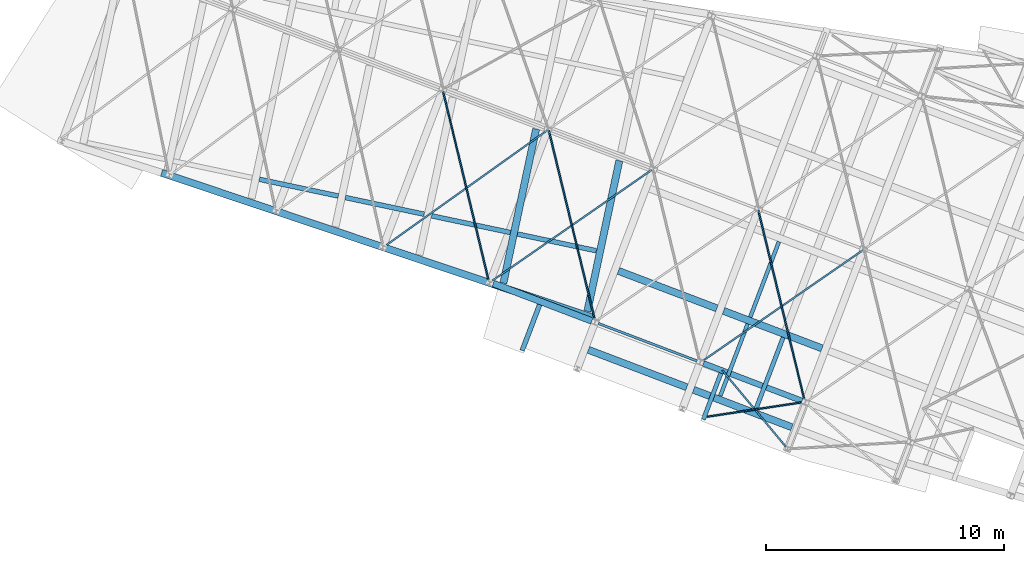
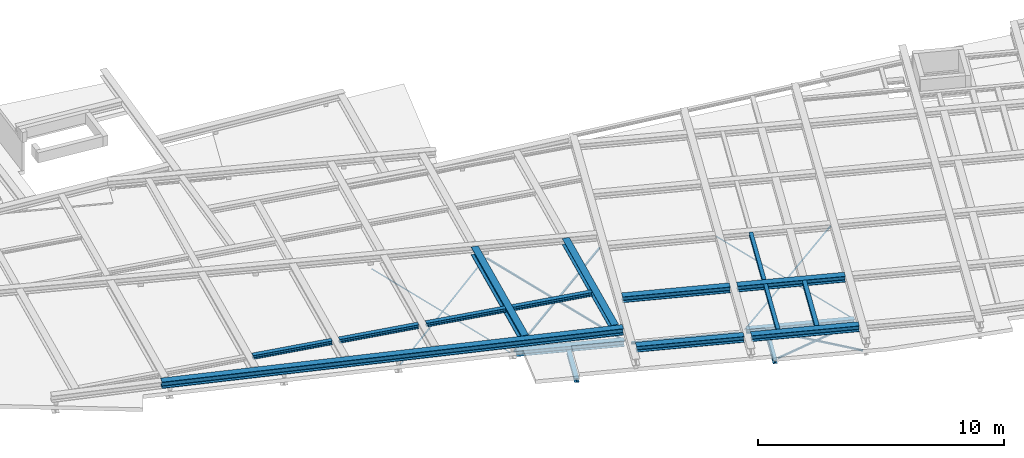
# One storey, part 9 of 21: 27 beams.
"""IFC2X3 building model written with IfcOpenShell, lengths in millimetres."""

from ifc_helpers import new_model, entity, si_unit, converted_unit, derived_unit, direction, frame, frame_2d, origin, place, context, subcontext, project, spatial, polyline, circle_curve, parameter, trimmed, segment, composite_curve, i_section, outline, extrude, material, type_object, element, save


model = new_model("IFC2X3")

# Units and contexts
model_context = context("Model", 3, precision=0.01, world=origin(), true_north=direction((6.123233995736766e-17, 1.0)))
body_context = subcontext(model_context, "Body", "Model", "MODEL_VIEW")
ifc_project = project(units=[si_unit("LENGTHUNIT", "METRE", prefix="MILLI"), converted_unit("PLANEANGLEUNIT", "DEGREE", entity("IfcPlaneAngleMeasure", 0.017453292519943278), si_unit("PLANEANGLEUNIT", "RADIAN"), dimensions=[0, 0, 0, 0, 0, 0, 0]), si_unit("AREAUNIT", "SQUARE_METRE"), derived_unit("THERMALTRANSMITTANCEUNIT", [(si_unit("MASSUNIT", "GRAM", prefix="KILO"), 1), (si_unit("THERMODYNAMICTEMPERATUREUNIT", "KELVIN"), -1), (si_unit("TIMEUNIT", "SECOND"), -3)])], contexts=[model_context])

# Site, building, storey
site_placement = place(None, frame((-72937.88054949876, 11621.45624098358, 0.0), z_axis=(0.0, 0.0, 1.0), x_axis=(0.9346418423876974, -0.35559053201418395, 0.0)))
site = spatial("IfcSite", under=ifc_project, at=site_placement, Name="Default", CompositionType="ELEMENT")
building_placement = place(site_placement, origin())
building = spatial("IfcBuilding", under=site, at=building_placement, CompositionType="ELEMENT")
storey_placement = place(building_placement, frame((0.0, 0.0, 4250.0)))
storey = spatial("IfcBuildingStorey", under=building, at=storey_placement, Name="01 eerste verdieping", CompositionType="ELEMENT", Elevation=4250.0)

# Beams
ifc_material_1 = material(Name="metaal_staal_generiek")
beam_type_1 = type_object("IfcBeamType", Name="DIE18", PredefinedType="BEAM")
beam_1_placement = place(storey_placement, frame((44360.0, 12882.982078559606, -80.0), z_axis=(0.0, 0.0, 1.0), x_axis=(0.0, 1.0, 0.0)))
element("IfcBeam", 1, at=beam_1_placement, inside=storey, type_object=beam_type_1, material=ifc_material_1, Name="28.11_Stalen balk HEA", ObjectType="stalen balk HEA profiel", context=body_context, shape_type="SweptSolid", body=[
    extrude(i_section(OverallWidth=180.0000000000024, OverallDepth=171.0000000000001, WebThickness=5.999999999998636, FlangeThickness=9.500000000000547, FilletRadius=14.999999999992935, at=frame_2d((1.0800249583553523e-12, 4.334310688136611e-12), x_axis=(0.0, 1.0))), frame((-85.49103927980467, 0.0, -255.50000000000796), z_axis=(1.0, 0.0, 0.0), x_axis=(0.0, 0.0, -1.0)), (0.0, 0.0, 1.0), 2082.500000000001),
])
beam_type_2 = type_object("IfcBeamType", Name="DIE24", PredefinedType="BEAM")
beam_2_placement = place(storey_placement, frame((48110.0, 15000.0, -80.0), z_axis=(0.0, 0.0, 1.0), x_axis=(-1.0, 0.0, 0.0)))
element("IfcBeam", 2, at=beam_2_placement, inside=storey, type_object=beam_type_2, material=ifc_material_1, Name="28.11_Stalen balk HEA", ObjectType="stalen balk HEA profiel", context=body_context, shape_type="SweptSolid", body=[
    extrude(i_section(OverallWidth=239.99999999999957, OverallDepth=229.9999999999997, WebThickness=7.50000000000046, FlangeThickness=12.00000000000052, FilletRadius=20.999999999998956, at=frame_2d((1.0800249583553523e-12, -1.0871303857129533e-12), x_axis=(0.0, 1.0))), frame((150.0, 0.0, -115.0), z_axis=(1.0, 0.0, 0.0), x_axis=(0.0, 0.0, -1.0)), (0.0, 0.0, 1.0), 4437.2999999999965),
])
beam_type_3 = type_object("IfcBeamType", Name="DIE10", PredefinedType="BEAM")
beam_3_placement = place(storey_placement, frame((43380.0, 15000.0, -80.0), z_axis=(0.0, 0.0, 1.0), x_axis=(-1.0, 0.0, 0.0)))
element("IfcBeam", 3, at=beam_3_placement, inside=storey, type_object=beam_type_3, material=ifc_material_1, Name="28.11_Stalen balk HEA", ObjectType="stalen balk HEA profiel", context=body_context, shape_type="SweptSolid", body=[
    extrude(i_section(OverallWidth=100.0000000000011, OverallDepth=95.99999999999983, WebThickness=5.0000000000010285, FlangeThickness=8.000000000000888, FilletRadius=11.999999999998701, at=frame_2d((1.623590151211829e-12, 3.2507330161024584e-12), x_axis=(0.0, 1.0))), frame((142.69999999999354, 0.0, -218.0), z_axis=(1.0, 0.0, 0.0), x_axis=(0.0, 0.0, -1.0)), (0.0, 0.0, 1.0), 4444.5999999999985),
])
beam_type_4 = type_object("IfcBeamType", Name="DIE28", PredefinedType="BEAM")
beam_4_placement = place(storey_placement, frame((38650.0, 15000.0, -80.0), z_axis=(0.0, 0.0, 1.0), x_axis=(-1.0, 0.0, 0.0)))
element("IfcBeam", 4, at=beam_4_placement, inside=storey, type_object=beam_type_4, material=ifc_material_1, Name="28.11_Stalen balk HEA", ObjectType="stalen balk HEA profiel", context=body_context, shape_type="SweptSolid", body=[
    extrude(i_section(OverallWidth=280.0000000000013, OverallDepth=269.9999999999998, WebThickness=7.999999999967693, FlangeThickness=13.000000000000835, FilletRadius=24.000000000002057, at=frame_2d((2.7000623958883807e-13, 1.0800249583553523e-12), x_axis=(0.0, 1.0))), frame((142.7136917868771, 0.0, -135.0), z_axis=(1.0, 0.0, 0.0), x_axis=(0.0, 0.0, -1.0)), (0.0, 0.0, 1.0), 4437.272616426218),
])
beam_type_5 = type_object("IfcBeamType", Name="DIE20", PredefinedType="BEAM")
beam_5_placement = place(storey_placement, frame((36210.0, 12882.982078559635, -80.0), z_axis=(0.0, 0.0, 1.0), x_axis=(0.0, 1.0, 0.0)))
element("IfcBeam", 5, at=beam_5_placement, inside=storey, type_object=beam_type_5, material=ifc_material_1, Name="28.11_Stalen balk HEA", ObjectType="stalen balk HEA profiel", context=body_context, shape_type="SweptSolid", body=[
    extrude(i_section(OverallWidth=199.99999999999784, OverallDepth=190.0000000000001, WebThickness=6.499999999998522, FlangeThickness=10.000000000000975, FilletRadius=18.0000000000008, at=frame_2d((1.0800249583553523e-12, 2.1671553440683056e-12), x_axis=(0.0, 1.0))), frame((-85.49103927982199, 0.0, -265.0), z_axis=(1.0, 0.0, 0.0), x_axis=(0.0, 0.0, -1.0)), (0.0, 0.0, 1.0), 2062.5000000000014),
])
beam_type_6 = type_object("IfcBeamType", Name="L70x7", PredefinedType="NOTDEFINED")
beam_6_placement = place(storey_placement, frame((48110.0, 12882.98207855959, -270.0), z_axis=(0.0, 0.0, 1.0), x_axis=(-0.8708161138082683, 0.4916088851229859, 0.0)))
element("IfcBeam", 6, at=beam_6_placement, inside=storey, type_object=beam_type_6, material=ifc_material_1, Name="28.11_SF_WVB-L-Gelijkzijdig:L70x7", ObjectType="28.11_SF_WVB-L-Gelijkzijdig:L70x7", context=body_context, shape_type="SweptSolid", body=[
    extrude(outline(composite_curve([segment(polyline([(-26.444444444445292, -43.5555555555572), (-23.944444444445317, -43.5555555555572)]), True, "CONTINUOUS"), segment(trimmed(circle_curve(frame_2d((-23.944444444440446, -39.05555555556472), x_axis=(0.0, -1.0)), 4.499999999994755), [parameter(0.0)], [parameter(90.00000000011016)], True, "PARAMETER"), True, "CONTINUOUS"), segment(polyline([(-19.444444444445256, -39.05555555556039), (-19.444444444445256, 10.44444444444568)]), True, "CONTINUOUS"), segment(trimmed(circle_curve(frame_2d((-10.444444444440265, 10.44444444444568), x_axis=(-1.0, 0.0)), 9.00000000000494), [parameter(270.0000000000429)], [parameter(0.0)], True, "PARAMETER"), False, "CONTINUOUS"), segment(polyline([(-10.444444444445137, 19.44444444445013), (39.05555555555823, 19.444444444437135)]), True, "CONTINUOUS"), segment(trimmed(circle_curve(frame_2d((39.05555555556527, 23.944444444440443), x_axis=(0.0, -1.0)), 4.4999999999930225), [parameter(0.0)], [parameter(90.00000000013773)], True, "PARAMETER"), True, "CONTINUOUS"), segment(polyline([(43.55555555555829, 23.94444444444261), (43.55555555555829, 26.44444444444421)]), True, "CONTINUOUS"), segment(polyline([(43.55555555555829, 26.444444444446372), (-26.444444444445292, 26.44444444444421)]), True, "CONTINUOUS"), segment(polyline([(-26.444444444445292, 26.444444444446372), (-26.444444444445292, -43.5555555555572)]), True, "CONTINUOUS")], self_intersect=False)), frame((135.90262346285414, -6.744444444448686, -6.7444444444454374), z_axis=(1.0, 0.0, 0.0), x_axis=(0.0, 0.0, -1.0)), (0.0, 0.0, 1.0), 4170.400000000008),
])
beam_7_placement = place(storey_placement, frame((48110.0, 15000.0, -270.0), z_axis=(0.0, 0.0, 1.0), x_axis=(-0.8708161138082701, -0.4916088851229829, 0.0)))
element("IfcBeam", 7, at=beam_7_placement, inside=storey, type_object=beam_type_6, material=ifc_material_1, Name="28.11_SF_WVB-L-Gelijkzijdig:L70x7", ObjectType="28.11_SF_WVB-L-Gelijkzijdig:L70x7", context=body_context, shape_type="SweptSolid", body=[
    extrude(outline(composite_curve([segment(polyline([(-26.444444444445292, -43.55555555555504), (-23.944444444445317, -43.55555555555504)]), True, "CONTINUOUS"), segment(trimmed(circle_curve(frame_2d((-23.944444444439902, -39.055555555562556), x_axis=(0.0, -1.0)), 4.499999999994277), [parameter(0.0)], [parameter(90.00000000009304)], True, "PARAMETER"), True, "CONTINUOUS"), segment(polyline([(-19.444444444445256, -39.05555555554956), (-19.444444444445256, 10.444444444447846)]), True, "CONTINUOUS"), segment(trimmed(circle_curve(frame_2d((-10.444444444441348, 10.44444444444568), x_axis=(-1.0, 0.0)), 9.000000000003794), [parameter(270.00000000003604)], [parameter(0.0)], True, "PARAMETER"), False, "CONTINUOUS"), segment(polyline([(-10.444444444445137, 19.444444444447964), (39.05555555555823, 19.444444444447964)]), True, "CONTINUOUS"), segment(trimmed(circle_curve(frame_2d((39.05555555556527, 23.944444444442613), x_axis=(0.0, -1.0)), 4.499999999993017), [parameter(0.0)], [parameter(90.00000000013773)], True, "PARAMETER"), True, "CONTINUOUS"), segment(polyline([(43.55555555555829, 23.944444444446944), (43.55555555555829, 26.44444444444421)]), True, "CONTINUOUS"), segment(polyline([(43.55555555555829, 26.44444444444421), (-26.444444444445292, 26.44444444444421)]), True, "CONTINUOUS"), segment(polyline([(-26.444444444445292, 26.44444444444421), (-26.444444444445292, -43.55555555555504)]), True, "CONTINUOUS")], self_intersect=False)), frame((173.15262346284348, -6.744444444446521, -6.7444444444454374), z_axis=(1.0, 0.0, 0.0), x_axis=(0.0, 0.0, -1.0)), (0.0, 0.0, 1.0), 3991.700000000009),
])
beam_8_placement = place(storey_placement, frame((43380.0, 15000.0, -270.0), z_axis=(0.0, 0.0, 1.0), x_axis=(0.5665288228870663, 0.824041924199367, 0.0)))
element("IfcBeam", 8, at=beam_8_placement, inside=storey, type_object=beam_type_6, material=ifc_material_1, Name="28.11_SF_WVB-L-Gelijkzijdig:L70x7", ObjectType="28.11_SF_WVB-L-Gelijkzijdig:L70x7", context=body_context, shape_type="SweptSolid", body=[
    extrude(outline(composite_curve([segment(polyline([(-26.444444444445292, -43.55555555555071), (-23.944444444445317, -43.55555555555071)]), True, "CONTINUOUS"), segment(trimmed(circle_curve(frame_2d((-23.94444444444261, -39.05555555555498), x_axis=(0.0, -1.0)), 4.499999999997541), [parameter(0.0)], [parameter(90.00000000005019)], True, "PARAMETER"), True, "CONTINUOUS"), segment(polyline([(-19.444444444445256, -39.05555555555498), (-19.444444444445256, 10.444444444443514)]), True, "CONTINUOUS"), segment(trimmed(circle_curve(frame_2d((-10.44444444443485, 10.444444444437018), x_axis=(-1.0, 0.0)), 9.000000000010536), [parameter(270.0000000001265)], [parameter(0.0)], True, "PARAMETER"), False, "CONTINUOUS"), segment(polyline([(-10.444444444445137, 19.444444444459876), (39.05555555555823, 19.444444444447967)]), True, "CONTINUOUS"), segment(trimmed(circle_curve(frame_2d((39.055555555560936, 23.944444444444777), x_axis=(0.0, -1.0)), 4.499999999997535), [parameter(0.0)], [parameter(90.00000000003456)], True, "PARAMETER"), True, "CONTINUOUS"), segment(polyline([(43.55555555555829, 23.944444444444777), (43.55555555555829, 26.44444444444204)]), True, "CONTINUOUS"), segment(polyline([(43.55555555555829, 26.44444444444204), (-26.444444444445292, 26.44444444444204)]), True, "CONTINUOUS"), segment(polyline([(-26.444444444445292, 26.444444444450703), (-26.444444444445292, -43.55555555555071)]), True, "CONTINUOUS")], self_intersect=False)), frame((189.39488537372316, -6.744444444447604, -6.7444444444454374), z_axis=(1.0, 0.0, 0.0), x_axis=(0.0, 0.0, -1.0)), (0.0, 0.0, 1.0), 8119.300000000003),
])
beam_9_placement = place(storey_placement, frame((38650.0, 15000.0, -270.0), z_axis=(0.0, 0.0, 1.0), x_axis=(-0.5665288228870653, 0.8240419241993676, 0.0)))
element("IfcBeam", 9, at=beam_9_placement, inside=storey, type_object=beam_type_6, material=ifc_material_1, Name="28.11_SF_WVB-L-Gelijkzijdig:L70x7", ObjectType="28.11_SF_WVB-L-Gelijkzijdig:L70x7", context=body_context, shape_type="SweptSolid", body=[
    extrude(outline(composite_curve([segment(polyline([(-26.444444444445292, -43.55555555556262), (-23.944444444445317, -43.55555555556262)]), True, "CONTINUOUS"), segment(trimmed(circle_curve(frame_2d((-23.944444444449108, -39.055555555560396), x_axis=(0.0, -1.0)), 4.500000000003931), [parameter(0.0)], [parameter(89.99999999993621)], True, "PARAMETER"), True, "CONTINUOUS"), segment(polyline([(-19.444444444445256, -39.055555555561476), (-19.444444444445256, 10.44444444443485)]), True, "CONTINUOUS"), segment(trimmed(circle_curve(frame_2d((-10.444444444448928, 10.444444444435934), x_axis=(-1.0, 0.0)), 8.99999999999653), [parameter(269.99999999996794)], [parameter(0.0)], True, "PARAMETER"), False, "CONTINUOUS"), segment(polyline([(-10.444444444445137, 19.444444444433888), (39.05555555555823, 19.44444444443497)]), True, "CONTINUOUS"), segment(trimmed(circle_curve(frame_2d((39.05555555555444, 23.944444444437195), x_axis=(0.0, -1.0)), 4.500000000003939), [parameter(0.0)], [parameter(89.99999999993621)], True, "PARAMETER"), True, "CONTINUOUS"), segment(polyline([(43.55555555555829, 23.94444444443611), (43.55555555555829, 26.444444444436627)]), True, "CONTINUOUS"), segment(polyline([(43.55555555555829, 26.444444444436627), (-26.444444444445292, 26.444444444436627)]), True, "CONTINUOUS"), segment(polyline([(-26.444444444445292, 26.444444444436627), (-26.444444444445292, -43.55555555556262)]), True, "CONTINUOUS")], self_intersect=False)), frame((177.9948853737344, -6.74444444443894, -6.7444444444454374), z_axis=(1.0, 0.0, 0.0), x_axis=(0.0, 0.0, -1.0)), (0.0, 0.0, 1.0), 8109.000000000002),
])
beam_10_placement = place(storey_placement, frame((38650.0, 21880.0, -270.0), z_axis=(0.0, 0.0, 1.0), x_axis=(-0.5645928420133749, -0.8253695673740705, 0.0)))
element("IfcBeam", 10, at=beam_10_placement, inside=storey, type_object=beam_type_6, material=ifc_material_1, Name="28.11_SF_WVB-L-Gelijkzijdig:L70x7", ObjectType="28.11_SF_WVB-L-Gelijkzijdig:L70x7", context=body_context, shape_type="SweptSolid", body=[
    extrude(outline(composite_curve([segment(polyline([(-26.4444444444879, -43.555555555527), (-23.944444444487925, -43.55555555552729)]), True, "CONTINUOUS"), segment(trimmed(circle_curve(frame_2d((-23.944444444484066, -39.05555555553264), x_axis=(0.0, -1.0)), 4.500000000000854), [parameter(0.0)], [parameter(89.9999999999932)], True, "PARAMETER"), True, "CONTINUOUS"), segment(polyline([(-19.444444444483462, -39.05555555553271), (-19.44444444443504, 10.444444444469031)]), True, "CONTINUOUS"), segment(trimmed(circle_curve(frame_2d((-10.44444444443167, 10.444444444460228), x_axis=(-1.0, 0.0)), 9.00000000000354), [parameter(270.0000000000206)], [parameter(0.0)], True, "PARAMETER"), False, "CONTINUOUS"), segment(polyline([(-10.444444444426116, 19.44444444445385), (39.05555555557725, 19.444444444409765)]), True, "CONTINUOUS"), segment(trimmed(circle_curve(frame_2d((39.05555555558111, 23.944444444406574), x_axis=(0.0, -1.0)), 4.500000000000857), [parameter(0.0)], [parameter(89.9999999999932)], True, "PARAMETER"), True, "CONTINUOUS"), segment(polyline([(43.55555555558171, 23.944444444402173), (43.555555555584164, 26.44444444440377)]), True, "CONTINUOUS"), segment(polyline([(43.555555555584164, 26.44444444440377), (-26.444444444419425, 26.444444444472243)]), True, "CONTINUOUS"), segment(polyline([(-26.444444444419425, 26.444444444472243), (-26.4444444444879, -43.55555555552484)]), True, "CONTINUOUS")], self_intersect=False)), frame((74.25934077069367, -6.744444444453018, -6.7444444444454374), z_axis=(1.0, 0.0, 0.0), x_axis=(0.0, 0.0, -1.0)), (0.0, 0.0, 1.0), 8151.700000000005),
])
beam_11_placement = place(storey_placement, frame((29190.0, 14778.05219420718, -270.0), z_axis=(0.0, 0.0, 1.0), x_axis=(0.5543243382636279, 0.8323007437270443, 0.0)))
element("IfcBeam", 11, at=beam_11_placement, inside=storey, type_object=beam_type_6, material=ifc_material_1, Name="28.11_SF_WVB-L-Gelijkzijdig:L70x7", ObjectType="28.11_SF_WVB-L-Gelijkzijdig:L70x7", context=body_context, shape_type="SweptSolid", body=[
    extrude(outline(composite_curve([segment(polyline([(-26.444444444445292, -43.55555555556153), (-23.944444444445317, -43.55555555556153)]), True, "CONTINUOUS"), segment(trimmed(circle_curve(frame_2d((-23.944444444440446, -39.05555555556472), x_axis=(0.0, -1.0)), 4.499999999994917), [parameter(0.0)], [parameter(90.00000000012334)], True, "PARAMETER"), True, "CONTINUOUS"), segment(polyline([(-19.444444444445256, -39.05555555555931), (-19.444444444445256, 10.444444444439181)]), True, "CONTINUOUS"), segment(trimmed(circle_curve(frame_2d((-10.44444444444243, 10.444444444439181), x_axis=(-1.0, 0.0)), 9.000000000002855), [parameter(270.00000000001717)], [parameter(0.0)], True, "PARAMETER"), False, "CONTINUOUS"), segment(polyline([(-10.444444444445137, 19.444444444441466), (39.05555555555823, 19.444444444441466)]), True, "CONTINUOUS"), segment(trimmed(circle_curve(frame_2d((39.0555555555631, 23.94444444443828), x_axis=(0.0, -1.0)), 4.499999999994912), [parameter(0.0)], [parameter(90.00000000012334)], True, "PARAMETER"), True, "CONTINUOUS"), segment(polyline([(43.55555555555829, 23.944444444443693), (43.55555555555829, 26.44444444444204)]), True, "CONTINUOUS"), segment(polyline([(43.55555555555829, 26.44444444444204), (-26.444444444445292, 26.44444444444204)]), True, "CONTINUOUS"), segment(polyline([(-26.444444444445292, 26.44444444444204), (-26.444444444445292, -43.55555555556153)]), True, "CONTINUOUS")], self_intersect=False)), frame((185.00528032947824, -6.744444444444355, -6.7444444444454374), z_axis=(1.0, 0.0, 0.0), x_axis=(0.0, 0.0, -1.0)), (0.0, 0.0, 1.0), 8306.500000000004),
])
beam_type_7 = type_object("IfcBeamType", Name="L70x7", PredefinedType="BEAM")
beam_12_placement = place(storey_placement, frame((43380.0, 21880.0, -270.0), z_axis=(0.0, 0.0, 1.0), x_axis=(0.5665288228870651, -0.8240419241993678, 0.0)))
element("IfcBeam", 12, at=beam_12_placement, inside=storey, type_object=beam_type_7, material=ifc_material_1, Name="28.11_SF_WVB-L-Gelijkzijdig:L70x7", ObjectType="28.11_SF_WVB-L-Gelijkzijdig:L70x7", context=body_context, shape_type="SweptSolid", body=[
    extrude(outline(composite_curve([segment(polyline([(-26.444444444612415, -43.5555555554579), (-23.94444444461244, -43.555555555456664)]), True, "CONTINUOUS"), segment(trimmed(circle_curve(frame_2d((-23.944444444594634, -39.05555555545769), x_axis=(0.0, -1.0)), 4.499999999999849), [parameter(0.0)], [parameter(90.00000000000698)], True, "PARAMETER"), True, "CONTINUOUS"), segment(polyline([(-19.444444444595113, -39.05555555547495), (-19.444444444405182, 10.444444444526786)]), True, "CONTINUOUS"), segment(trimmed(circle_curve(frame_2d((-10.444444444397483, 10.444444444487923), x_axis=(-1.0, 0.0)), 9.000000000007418), [parameter(270.0000000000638)], [parameter(0.0)], True, "PARAMETER"), False, "CONTINUOUS"), segment(polyline([(-10.444444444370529, 19.444444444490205), (39.055555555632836, 19.44444444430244)]), True, "CONTINUOUS"), segment(trimmed(circle_curve(frame_2d((39.05555555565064, 23.944444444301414), x_axis=(0.0, -1.0)), 4.499999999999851), [parameter(0.0)], [parameter(90.00000000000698)], True, "PARAMETER"), True, "CONTINUOUS"), segment(polyline([(43.555555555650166, 23.944444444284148), (43.55555555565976, 26.44444444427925)]), True, "CONTINUOUS"), segment(polyline([(43.55555555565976, 26.44444444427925), (-26.444444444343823, 26.44444444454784)]), True, "CONTINUOUS"), segment(polyline([(-26.444444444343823, 26.44444444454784), (-26.444444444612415, -43.55555555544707)]), True, "CONTINUOUS")], self_intersect=False)), frame((53.09488537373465, -6.744444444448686, -6.7444444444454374), z_axis=(1.0, 0.0, 0.0), x_axis=(0.0, 0.0, -1.0)), (0.0, 0.0, 1.0), 8119.300000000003),
])
beam_13_placement = place(storey_placement, frame((29190.0, 21880.0, -270.0), z_axis=(0.0, 0.0, 1.0), x_axis=(0.5645928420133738, -0.8253695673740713, 0.0)))
element("IfcBeam", 13, at=beam_13_placement, inside=storey, type_object=beam_type_7, material=ifc_material_1, Name="28.11_SF_WVB-L-Gelijkzijdig:L70x7", ObjectType="28.11_SF_WVB-L-Gelijkzijdig:L70x7", context=body_context, shape_type="SweptSolid", body=[
    extrude(outline(composite_curve([segment(polyline([(-26.444444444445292, -43.55555555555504), (-23.944444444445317, -43.55555555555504)]), True, "CONTINUOUS"), segment(trimmed(circle_curve(frame_2d((-23.94444444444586, -39.055555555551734), x_axis=(0.0, -1.0)), 4.50000000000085), [parameter(0.0)], [parameter(89.9999999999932)], True, "PARAMETER"), True, "CONTINUOUS"), segment(polyline([(-19.444444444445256, -39.055555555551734), (-19.444444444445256, 10.44444444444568)]), True, "CONTINUOUS"), segment(trimmed(circle_curve(frame_2d((-10.444444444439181, 10.444444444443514), x_axis=(-1.0, 0.0)), 9.000000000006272), [parameter(270.00000000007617)], [parameter(0.0)], True, "PARAMETER"), False, "CONTINUOUS"), segment(polyline([(-10.444444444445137, 19.444444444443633), (39.05555555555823, 19.444444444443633)]), True, "CONTINUOUS"), segment(trimmed(circle_curve(frame_2d((39.05555555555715, 23.94444444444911), x_axis=(0.0, -1.0)), 4.500000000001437), [parameter(0.0)], [parameter(89.99999999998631)], True, "PARAMETER"), True, "CONTINUOUS"), segment(polyline([(43.55555555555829, 23.94444444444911), (43.55555555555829, 26.444444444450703)]), True, "CONTINUOUS"), segment(polyline([(43.55555555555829, 26.444444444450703), (-26.444444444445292, 26.444444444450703)]), True, "CONTINUOUS"), segment(polyline([(-26.444444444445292, 26.444444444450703), (-26.444444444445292, -43.55555555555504)]), True, "CONTINUOUS")], self_intersect=False)), frame((88.20934077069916, -6.744444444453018, -6.7444444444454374), z_axis=(1.0, 0.0, 0.0), x_axis=(0.0, 0.0, -1.0)), (0.0, 0.0, 1.0), 8128.000000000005),
])
ifc_material_2 = material(Name="metaal_staal_profiel_s235")
beam_type_8 = type_object("IfcBeamType", Name="HEB320", PredefinedType="BEAM")
beam_14_placement = place(storey_placement, frame((19382.78054287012, 14389.840229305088, 450.0), z_axis=(0.0, 0.0, 1.0), x_axis=(0.9992174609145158, 0.03955332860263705, 0.0)))
element("IfcBeam", 14, at=beam_14_placement, inside=storey, type_object=beam_type_8, material=ifc_material_2, Name="28.11_Stalen balk HEB", ObjectType="28.11_SF_BalkHEB:HEB320", context=body_context, shape_type="SweptSolid", body=[
    extrude(i_section(OverallWidth=300.0000000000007, OverallDepth=319.99999999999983, WebThickness=11.500000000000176, FlangeThickness=20.500000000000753, FilletRadius=26.999999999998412, at=frame_2d((5.400124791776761e-13, -1.0800249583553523e-12), x_axis=(0.0, 1.0))), frame((5.404308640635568, 0.0, -160.0), z_axis=(1.0, 0.0, 0.0), x_axis=(0.0, 0.0, -1.0)), (0.0, 0.0, 1.0), 19108.100000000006),
])
beam_type_9 = type_object("IfcBeamType", Name="HEA320", PredefinedType="BEAM")
beam_15_placement = place(storey_placement, frame((37162.64000453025, 21880.0, 450.0), z_axis=(0.0, 0.0, 1.0), x_axis=(0.15393076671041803, -0.9880816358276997, 0.0)))
element("IfcBeam", 15, at=beam_15_placement, inside=storey, type_object=beam_type_9, material=ifc_material_2, Name="28.11_Stalen balk HEA", ObjectType="stalen balk HEA profiel", context=body_context, shape_type="SweptSolid", body=[
    extrude(i_section(OverallWidth=300.0000000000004, OverallDepth=309.9999999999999, WebThickness=8.99999999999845, FlangeThickness=15.500000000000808, FilletRadius=26.999999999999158, at=frame_2d((0.0, -1.1027623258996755e-11), x_axis=(0.0, 1.0))), frame((175.20968491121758, 0.0, -155.0), z_axis=(1.0, 0.0, 0.0), x_axis=(0.0, 0.0, -1.0)), (0.0, 0.0, 1.0), 6469.800000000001),
])
beam_type_10 = type_object("IfcBeamType", Name="HEB400", PredefinedType="BEAM")
beam_16_placement = place(storey_placement, frame((33418.010142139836, 21880.0, 450.0), z_axis=(0.0, 0.0, 1.0), x_axis=(0.15393076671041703, -0.9880816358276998, 0.0)))
element("IfcBeam", 16, at=beam_16_placement, inside=storey, type_object=beam_type_10, material=ifc_material_2, Name="28.11_Stalen balk HEB", ObjectType="28.11_SF_BalkHEB:HEB400", context=body_context, shape_type="SweptSolid", body=[
    extrude(i_section(OverallWidth=299.99999999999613, OverallDepth=400.0, WebThickness=13.499999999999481, FlangeThickness=24.00000000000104, FilletRadius=27.00000000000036, at=frame_2d((1.3642420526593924e-12, -2.1458390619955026e-12), x_axis=(0.0, 1.0))), frame((175.20822427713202, 0.0, -200.0), z_axis=(1.0, 0.0, 0.0), x_axis=(0.0, 0.0, -1.0)), (0.0, 0.0, 1.0), 6618.900000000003),
])
beam_type_11 = type_object("IfcBeamType", Name="HEA200", PredefinedType="BEAM")
beam_17_placement = place(storey_placement, frame((37790.281571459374, 17851.16860121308, 450.0), z_axis=(0.0, 0.0, 1.0), x_axis=(-0.9880816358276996, -0.15393076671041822, 0.0)))
element("IfcBeam", 17, at=beam_17_placement, inside=storey, type_object=beam_type_11, material=ifc_material_2, Name="28.11_Stalen balk HEA", ObjectType="stalen balk HEA profiel", context=body_context, shape_type="SweptSolid", body=[
    extrude(i_section(OverallWidth=199.9999999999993, OverallDepth=190.0000000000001, WebThickness=6.499999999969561, FlangeThickness=10.000000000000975, FilletRadius=17.99999999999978, at=frame_2d((5.400124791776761e-13, 1.0729195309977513e-12), x_axis=(0.0, 1.0))), frame((162.90214859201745, 0.0, -95.0), z_axis=(1.0, 0.0, 0.0), x_axis=(0.0, 0.0, -1.0)), (0.0, 0.0, 1.0), 3386.9000000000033),
])
beam_18_placement = place(storey_placement, frame((30478.477466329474, 16712.080927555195, 450.0), z_axis=(0.0, 0.0, 1.0), x_axis=(0.9880816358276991, 0.1539307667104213, 0.0)))
element("IfcBeam", 18, at=beam_18_placement, inside=storey, type_object=beam_type_11, material=ifc_material_2, Name="28.11_Stalen balk HEA", ObjectType="stalen balk HEA profiel", context=body_context, shape_type="SweptSolid", body=[
    extrude(i_section(OverallWidth=200.00000000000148, OverallDepth=190.0000000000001, WebThickness=6.499999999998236, FlangeThickness=10.000000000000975, FilletRadius=17.999999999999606, at=frame_2d((5.400124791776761e-13, -1.4068746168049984e-12), x_axis=(0.0, 1.0))), frame((162.90215077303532, 0.0, -95.0), z_axis=(1.0, 0.0, 0.0), x_axis=(0.0, 0.0, -1.0)), (0.0, 0.0, 1.0), 3386.900000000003),
])
beam_19_placement = place(storey_placement, frame((30478.477466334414, 16712.080927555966, 450.0), z_axis=(0.0, 0.0, 1.0), x_axis=(-0.9880816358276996, -0.15393076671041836, 0.0)))
element("IfcBeam", 19, at=beam_19_placement, inside=storey, type_object=beam_type_11, material=ifc_material_2, Name="28.11_Stalen balk HEA", ObjectType="stalen balk HEA profiel", context=body_context, shape_type="SweptSolid", body=[
    extrude(i_section(OverallWidth=200.00000000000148, OverallDepth=190.0000000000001, WebThickness=6.500000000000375, FlangeThickness=10.000000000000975, FilletRadius=17.999999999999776, at=frame_2d((5.400124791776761e-13, 2.4797941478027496e-12), x_axis=(0.0, 1.0))), frame((162.90214859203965, 0.0, -95.0), z_axis=(1.0, 0.0, 0.0), x_axis=(0.0, 0.0, -1.0)), (0.0, 0.0, 1.0), 3386.9000000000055),
])
beam_20_placement = place(storey_placement, frame((23166.673361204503, 15572.993253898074, 450.0), z_axis=(0.0, 0.0, 1.0), x_axis=(0.9880816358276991, 0.15393076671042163, 0.0)))
element("IfcBeam", 20, at=beam_20_placement, inside=storey, type_object=beam_type_11, material=ifc_material_2, Name="28.11_Stalen balk HEA", ObjectType="stalen balk HEA profiel", context=body_context, shape_type="SweptSolid", body=[
    extrude(i_section(OverallWidth=200.00000000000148, OverallDepth=190.0000000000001, WebThickness=6.499999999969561, FlangeThickness=10.000000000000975, FilletRadius=17.99999999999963, at=frame_2d((5.400124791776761e-13, 0.0), x_axis=(0.0, 1.0))), frame((162.9021507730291, 0.0, -95.0), z_axis=(1.0, 0.0, 0.0), x_axis=(0.0, 0.0, -1.0)), (0.0, 0.0, 1.0), 3386.9000000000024),
])
beam_type_12 = type_object("IfcBeamType", Name="HEA300", PredefinedType="BEAM")
beam_21_placement = place(storey_placement, frame((48110.0, 17365.000128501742, 450.0), z_axis=(0.0, 0.0, 1.0), x_axis=(-1.0, 0.0, 0.0)))
element("IfcBeam", 21, at=beam_21_placement, inside=storey, type_object=beam_type_12, material=ifc_material_2, Name="28.11_Stalen balk HEA", ObjectType="stalen balk HEA profiel", context=body_context, shape_type="SweptSolid", body=[
    extrude(i_section(OverallWidth=300.0000000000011, OverallDepth=290.0000000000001, WebThickness=8.500000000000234, FlangeThickness=14.000000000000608, FilletRadius=27.000000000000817, at=frame_2d((0.0, -1.0800249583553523e-12), x_axis=(0.0, 1.0))), frame((150.0, 0.0, -145.0), z_axis=(1.0, 0.0, 0.0), x_axis=(0.0, 0.0, -1.0)), (0.0, 0.0, 1.0), 4429.999999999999),
])
beam_22_placement = place(storey_placement, frame((43380.0, 17365.00012850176, 450.0), z_axis=(0.0, 0.0, 1.0), x_axis=(-1.0, 0.0, 0.0)))
element("IfcBeam", 22, at=beam_22_placement, inside=storey, type_object=beam_type_12, material=ifc_material_2, Name="28.11_Stalen balk HEA", ObjectType="stalen balk HEA profiel", context=body_context, shape_type="SweptSolid", body=[
    extrude(i_section(OverallWidth=300.0000000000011, OverallDepth=290.0000000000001, WebThickness=8.500000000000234, FlangeThickness=14.000000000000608, FilletRadius=27.000000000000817, at=frame_2d((0.0, 3.254285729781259e-12), x_axis=(0.0, 1.0))), frame((150.0, 0.0, -145.0), z_axis=(1.0, 0.0, 0.0), x_axis=(0.0, 0.0, -1.0)), (0.0, 0.0, 1.0), 4429.999999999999),
])
beam_23_placement = place(storey_placement, frame((48110.0, 13815.000128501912, 450.0), z_axis=(0.0, 0.0, 1.0), x_axis=(-1.0, 0.0, 0.0)))
element("IfcBeam", 23, at=beam_23_placement, inside=storey, type_object=beam_type_12, material=ifc_material_2, Name="28.11_Stalen balk HEA", ObjectType="stalen balk HEA profiel", context=body_context, shape_type="SweptSolid", body=[
    extrude(i_section(OverallWidth=300.0000000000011, OverallDepth=290.0000000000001, WebThickness=8.500000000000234, FlangeThickness=14.000000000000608, FilletRadius=27.000000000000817, at=frame_2d((0.0, 1.0800249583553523e-12), x_axis=(0.0, 1.0))), frame((150.0, 0.0, -145.0), z_axis=(1.0, 0.0, 0.0), x_axis=(0.0, 0.0, -1.0)), (0.0, 0.0, 1.0), 4429.999999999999),
])
beam_24_placement = place(storey_placement, frame((43380.0, 13815.00012850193, 450.0), z_axis=(0.0, 0.0, 1.0), x_axis=(-1.0, 0.0, 0.0)))
element("IfcBeam", 24, at=beam_24_placement, inside=storey, type_object=beam_type_12, material=ifc_material_2, Name="28.11_Stalen balk HEA", ObjectType="stalen balk HEA profiel", context=body_context, shape_type="SweptSolid", body=[
    extrude(i_section(OverallWidth=300.0000000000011, OverallDepth=290.0000000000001, WebThickness=8.500000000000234, FlangeThickness=14.000000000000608, FilletRadius=27.000000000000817, at=frame_2d((0.0, -1.0800249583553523e-12), x_axis=(0.0, 1.0))), frame((150.0, 0.0, -145.0), z_axis=(1.0, 0.0, 0.0), x_axis=(0.0, 0.0, -1.0)), (0.0, 0.0, 1.0), 4429.999999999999),
])
beam_type_13 = type_object("IfcBeamType", Name="HEA180", PredefinedType="BEAM")
beam_25_placement = place(storey_placement, frame((46270.0, 13815.000128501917, 450.0), z_axis=(0.0, 0.0, 1.0), x_axis=(0.0, 1.0, 0.0)))
element("IfcBeam", 25, at=beam_25_placement, inside=storey, type_object=beam_type_13, material=ifc_material_2, Name="28.11_Stalen balk HEA", ObjectType="stalen balk HEA profiel", context=body_context, shape_type="SweptSolid", body=[
    extrude(i_section(OverallWidth=180.0000000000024, OverallDepth=171.0000000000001, WebThickness=5.999999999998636, FlangeThickness=9.500000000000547, FilletRadius=14.999999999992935, at=frame_2d((1.0800249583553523e-12, -4.334310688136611e-12), x_axis=(0.0, 1.0))), frame((162.69999999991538, 0.0, -85.50000000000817), z_axis=(1.0, 0.0, 0.0), x_axis=(0.0, 0.0, -1.0)), (0.0, 0.0, 1.0), 3237.300000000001),
])
beam_type_14 = type_object("IfcBeamType", Name="HEA160", PredefinedType="BEAM")
beam_26_placement = place(storey_placement, frame((44672.13926068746, 13815.00012850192, 450.0), z_axis=(0.0, 0.0, 1.0), x_axis=(0.0, 1.0, 0.0)))
element("IfcBeam", 26, at=beam_26_placement, inside=storey, type_object=beam_type_14, material=ifc_material_2, Name="28.11_Stalen balk HEA", ObjectType="stalen balk HEA profiel", context=body_context, shape_type="SweptSolid", body=[
    extrude(i_section(OverallWidth=159.99999999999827, OverallDepth=152.00000000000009, WebThickness=5.999999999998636, FlangeThickness=9.00000000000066, FilletRadius=14.999999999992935, at=frame_2d((5.400124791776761e-13, 0.0), x_axis=(0.0, 1.0))), frame((162.69999999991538, 0.0, -76.0), z_axis=(1.0, 0.0, 0.0), x_axis=(0.0, 0.0, -1.0)), (0.0, 0.0, 1.0), 3237.300000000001),
])
beam_27_placement = place(storey_placement, frame((44672.139260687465, 17365.000128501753, 450.0), z_axis=(0.0, 0.0, 1.0), x_axis=(0.0, 1.0, 0.0)))
element("IfcBeam", 27, at=beam_27_placement, inside=storey, type_object=beam_type_14, material=ifc_material_2, Name="28.11_Stalen balk HEA", ObjectType="stalen balk HEA profiel", context=body_context, shape_type="SweptSolid", body=[
    extrude(i_section(OverallWidth=159.99999999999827, OverallDepth=152.00000000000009, WebThickness=5.999999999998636, FlangeThickness=9.00000000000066, FilletRadius=14.999999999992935, at=frame_2d((5.400124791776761e-13, 0.0), x_axis=(0.0, 1.0))), frame((150.0, 0.0, -76.0), z_axis=(1.0, 0.0, 0.0), x_axis=(0.0, 0.0, -1.0)), (0.0, 0.0, 1.0), 3400.000000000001),
])

save(model, "model.ifc")
